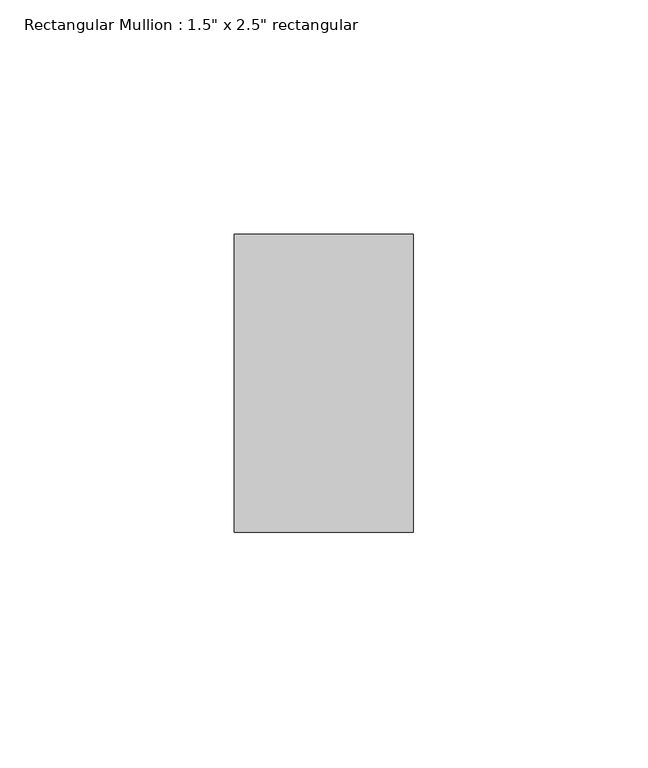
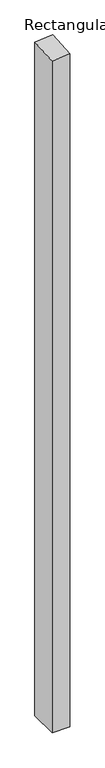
"""IFC4 building model written with IfcOpenShell, lengths in millimetres: member geometry."""

from ifc_helpers import new_model, si_unit, origin, place, context, project, spatial, faceted_brep, source, transform, mapped, element, save


def member_9ce02bd3(model_context):
    return source(origin(), model_context, "Body", "Brep", [
        faceted_brep([(19.05, 31.75, -1522.7715881), (19.05, -31.75, -1522.7715881), (-19.05, -31.75, -1522.7715881), (-19.05, 31.75, -1522.7715881), (-19.05, 31.75, 0.8927076), (19.05, 31.75, 3.6083517), (-19.05, -31.75, -3.6083517), (19.05, -31.75, -0.8927076)], [[[0, 1, 2, 3]], [[4, 5, 0, 3]], [[6, 4, 3, 2]], [[7, 6, 2, 1]], [[5, 7, 1, 0]], [[5, 4, 6, 7]]]),
    ])


if __name__ == "__main__":
    model = new_model("IFC4")
    model_context = context("Model", 3, world=origin())
    ifc_project = project(units=[si_unit("LENGTHUNIT", "METRE", prefix="MILLI")], contexts=[model_context])
    site = spatial("IfcSite", under=ifc_project)
    building = spatial("IfcBuilding", under=site)
    placement = place(None, origin())
    member_shape = member_9ce02bd3(model_context)
    element("IfcMember", 1, ObjectType="Rectangular Mullion : 1.5\" x 2.5\" rectangular", at=placement, inside=building, context=model_context, shape_type="MappedRepresentation", body=[
        mapped(member_shape, transform((0.0, 0.0, 0.0), x_axis=(1.0, 0.0, 0.0), y_axis=(0.0, 1.0, 0.0), z_axis=(0.0, 0.0, 1.0))),
    ])
    save(model, "model.ifc")
